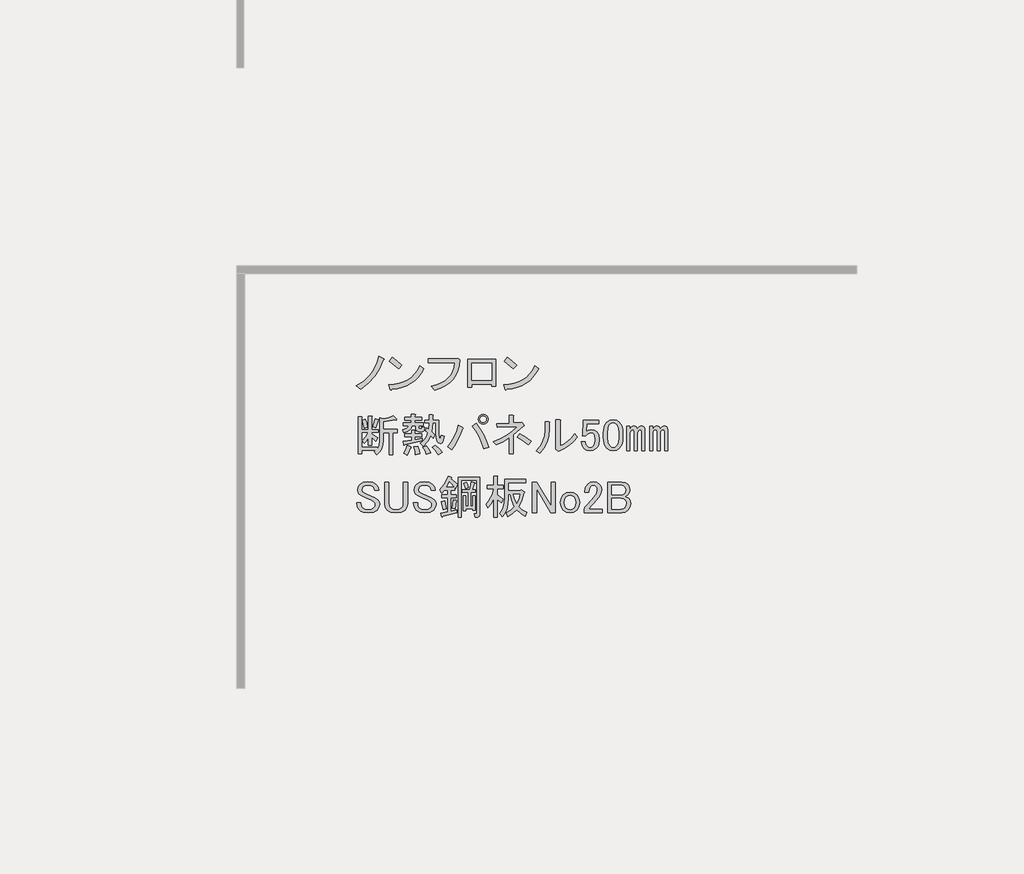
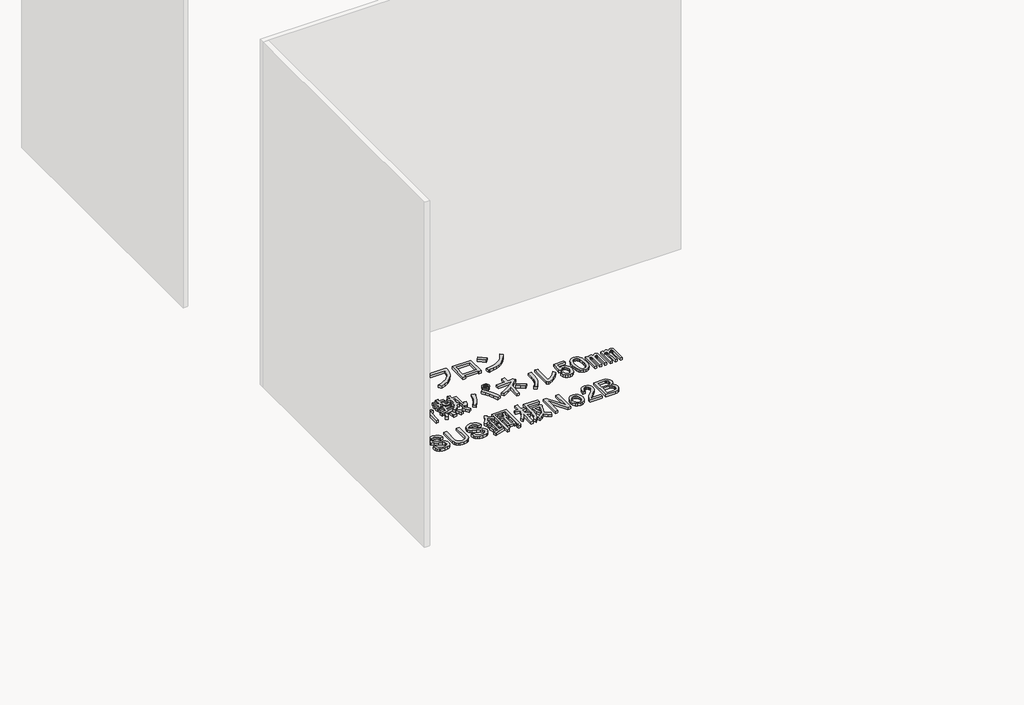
# One storey, part 87 of 117: 1 proxy.
"""IFC4 building model written with IfcOpenShell, lengths in millimetres."""

from ifc_helpers import new_model, si_unit, frame, origin, place, context, project, spatial, polyline, outline, extrude, element, save

model = new_model("IFC4")

# Units and contexts
model_context = context("Model", 3, world=origin())
ifc_project = project(units=[si_unit("LENGTHUNIT", "METRE", prefix="MILLI")], contexts=[model_context])

# Site, building, storey
site = spatial("IfcSite", under=ifc_project)
building = spatial("IfcBuilding", under=site)
storey = spatial("IfcBuildingStorey", under=building, Name="レベル 1", Elevation=500.0)

# Proxy
placement = place(None, origin())
element("IfcBuildingElementProxy", 1, Name="200㎜\u3000MS Pゴシック", ObjectType="200㎜\u3000MS Pゴシック", at=placement, inside=storey, context=model_context, shape_type="SweptSolid", body=[
    extrude(outline(polyline([(8943.6706985, 7392.9503118), (8918.0952502, 7333.1784775), (8889.646156, 7287.2001434), (8847.9782907, 7241.7965385), (8798.8389462, 7204.439142), (8771.2519457, 7226.2788507), (8818.9544673, 7256.7394971), (8858.6107805, 7295.2463519), (8875.9963381, 7319.1694538), (8891.3703435, 7347.2593423), (8904.7327969, 7379.5160173), (8916.0836981, 7415.9394788), (8947.1190736, 7402.1459786), (8950.2800841, 7397.5481452), (8943.6706985, 7392.9503118)])), frame((0.0, 0.0, 500.0), z_axis=(0.0, 0.0, 1.0), x_axis=(1.0, 0.0, 0.0)), (0.0, 0.0, 1.0), 25.0),
    extrude(outline(polyline([(9043.3977052, 7337.7763109), (8984.7753292, 7384.9041033), (9004.3161212, 7409.0427287), (9031.6157571, 7389.2145721), (9065.2374138, 7359.6160196), (9043.3977052, 7337.7763109)])), frame((0.0, 0.0, 500.0), z_axis=(0.0, 0.0, 1.0), x_axis=(1.0, 0.0, 0.0)), (0.0, 0.0, 1.0), 25.0),
    extrude(outline(polyline([(9205.4713328, 7337.7763109), (9188.947869, 7308.034076), (9169.8381239, 7282.0275808), (9148.1420975, 7259.7568252), (9123.8597898, 7241.2218093), (9096.9912008, 7226.422533), (9067.5363306, 7215.3589964), (9035.495179, 7208.0311994), (9000.8677461, 7204.439142), (8995.1204544, 7196.3929336), (8989.3731626, 7202.1402253), (8980.1774958, 7232.0261425), (9016.0082679, 7234.7022252), (9048.7857912, 7241.0062859), (9078.5100658, 7250.9383244), (9105.1810916, 7264.4983409), (9128.7988687, 7281.6863354), (9149.363397, 7302.5023077), (9166.8746766, 7326.946258), (9181.3327074, 7355.0181862), (9205.4713328, 7337.7763109)])), frame((0.0, 0.0, 500.0), z_axis=(0.0, 0.0, 1.0), x_axis=(1.0, 0.0, 0.0)), (0.0, 0.0, 1.0), 25.0),
    extrude(outline(polyline([(9256.2314136, 7222.8304757), (9290.014713, 7232.5110702), (9319.5234641, 7244.8857078), (9344.757667, 7259.9543884), (9365.7173217, 7277.717112), (9382.402428, 7298.1738786), (9394.8129862, 7321.3246882), (9402.9489961, 7347.1695409), (9406.8104577, 7375.7084365), (9234.3917049, 7375.7084365), (9234.3917049, 7400.9965202), (9409.1093744, 7400.9965202), (9425.2017914, 7404.4448953), (9437.8458332, 7392.9503118), (9434.325617, 7356.4550091), (9426.0638851, 7323.4080815), (9413.0606375, 7293.8095289), (9395.3158742, 7267.6593514), (9372.8295952, 7244.957549), (9345.6018005, 7225.7041216), (9313.6324901, 7209.8990692), (9276.921664, 7197.5423919), (9256.2314136, 7222.8304757)])), frame((0.0, 0.0, 500.0), z_axis=(0.0, 0.0, 1.0), x_axis=(1.0, 0.0, 0.0)), (0.0, 0.0, 1.0), 25.0),
    extrude(outline(polyline([(9670.955987, 7223.979934), (9644.5184449, 7223.979934), (9644.5184449, 7236.6239759), (9516.9285679, 7236.6239759), (9516.9285679, 7218.2326423), (9490.4910258, 7218.2326423), (9490.4910258, 7397.5481452), (9670.955987, 7397.5481452), (9670.955987, 7223.979934)]), holes=[polyline([(9516.9285679, 7372.2600614), (9516.9285679, 7261.9120596), (9644.5184449, 7261.9120596), (9644.5184449, 7372.2600614), (9516.9285679, 7372.2600614)])]), frame((0.0, 0.0, 500.0), z_axis=(0.0, 0.0, 1.0), x_axis=(1.0, 0.0, 0.0)), (0.0, 0.0, 1.0), 25.0),
    extrude(outline(polyline([(9947.0099049, 7337.7763109), (9930.4864411, 7308.034076), (9911.376696, 7282.0275808), (9889.6806696, 7259.7568252), (9865.3983619, 7241.2218093), (9838.5297729, 7226.422533), (9809.0749026, 7215.3589964), (9777.0337511, 7208.0311994), (9742.4063182, 7204.439142), (9736.6590264, 7196.3929336), (9730.9117347, 7202.1402253), (9721.7160679, 7232.0261425), (9757.5468399, 7234.7022252), (9790.3243633, 7241.0062859), (9820.0486378, 7250.9383244), (9846.7196637, 7264.4983409), (9870.3374407, 7281.6863354), (9890.9019691, 7302.5023077), (9908.4132486, 7326.946258), (9922.8712795, 7355.0181862), (9947.0099049, 7337.7763109)])), frame((0.0, 0.0, 500.0), z_axis=(0.0, 0.0, 1.0), x_axis=(1.0, 0.0, 0.0)), (0.0, 0.0, 1.0), 25.0),
    extrude(outline(polyline([(9784.9362772, 7337.7763109), (9726.3139013, 7384.9041033), (9745.8546933, 7409.0427287), (9773.1543291, 7389.2145721), (9806.7759859, 7359.6160196), (9784.9362772, 7337.7763109)])), frame((0.0, 0.0, 500.0), z_axis=(0.0, 0.0, 1.0), x_axis=(1.0, 0.0, 0.0)), (0.0, 0.0, 1.0), 25.0),
    extrude(outline(polyline([(8877.0021141, 6960.7654779), (8894.2439894, 7013.6405621), (8914.9342397, 7007.8932704), (8916.6584273, 7004.7322599), (8912.635323, 7002.1459786), (8895.3934478, 6953.8687278), (8877.0021141, 6960.7654779)])), frame((0.0, 0.0, 500.0), z_axis=(0.0, 0.0, 1.0), x_axis=(1.0, 0.0, 0.0)), (0.0, 0.0, 1.0), 25.0),
    extrude(outline(polyline([(9031.0295333, 7009.0427287), (9029.3053458, 7004.4448953), (9021.8338665, 7006.743812), (8944.8201569, 6994.0997701), (8944.8201569, 6944.673061), (9036.7768251, 6944.673061), (9036.7768251, 6922.8333523), (9005.7414495, 6922.8333523), (9005.7414495, 6782.5994334), (8982.7522825, 6782.5994334), (8982.7522825, 6922.8333523), (8944.8201569, 6922.8333523), (8944.8201569, 6873.4066432), (8942.2338756, 6845.6041193), (8934.4750317, 6820.8189236), (8921.5436253, 6799.051056), (8903.4396562, 6780.3005167), (8886.1977809, 6799.8413086), (8896.5429061, 6809.0369755), (8806.8851546, 6809.0369755), (8806.8851546, 6787.1972668), (8783.8959876, 6787.1972668), (8783.8959876, 7026.284604), (8805.7356963, 7026.284604), (8810.6208943, 7023.9856873), (8806.8851546, 7019.3878539), (8806.8851546, 6943.5236026), (8849.4151137, 6943.5236026), (8849.4151137, 7030.8824374), (8867.8064473, 7030.8824374), (8872.6916453, 7028.5835207), (8868.9559057, 7023.9856873), (8868.9559057, 6943.5236026), (8912.635323, 6943.5236026), (8912.635323, 6925.132269), (8868.9559057, 6925.132269), (8868.9559057, 6915.9366022), (8909.186948, 6889.4990601), (8895.3934478, 6867.6593514), (8868.9559057, 6894.0968935), (8868.9559057, 6841.2218093), (8849.4151137, 6841.2218093), (8849.4151137, 6889.4990601), (8836.1963426, 6869.6709035), (8821.8281132, 6853.8658512), (8809.1840713, 6872.2571848), (8831.02378, 6896.3958102), (8848.2656553, 6925.132269), (8806.8851546, 6925.132269), (8806.8851546, 6830.8766841), (8904.5891146, 6830.8766841), (8904.5891146, 6817.0831839), (8917.520521, 6841.2218093), (8921.8309898, 6874.5561015), (8921.8309898, 7019.3878539), (8943.6706985, 7013.6405621), (8979.8786366, 7021.1120414), (9010.339283, 7034.3308125), (9031.0295333, 7009.0427287)])), frame((0.0, 0.0, 500.0), z_axis=(0.0, 0.0, 1.0), x_axis=(1.0, 0.0, 0.0)), (0.0, 0.0, 1.0), 25.0),
    extrude(outline(polyline([(8822.9775716, 6952.7192695), (8810.3335297, 7003.2954369), (8829.8743217, 7010.1921871), (8837.6331656, 6986.0535617), (8842.5183636, 6959.6160196), (8822.9775716, 6952.7192695)])), frame((0.0, 0.0, 500.0), z_axis=(0.0, 0.0, 1.0), x_axis=(1.0, 0.0, 0.0)), (0.0, 0.0, 1.0), 25.0),
    extrude(outline(polyline([(9121.8367431, 6832.0261425), (9125.2851182, 6827.1409445), (9119.5378264, 6823.979934), (9109.7674304, 6798.4044857), (9098.8475761, 6779.1510583), (9075.858409, 6790.6456418), (9088.5024509, 6814.209538), (9098.8475761, 6841.2218093), (9121.8367431, 6832.0261425)])), frame((0.0, 0.0, 500.0), z_axis=(0.0, 0.0, 1.0), x_axis=(1.0, 0.0, 0.0)), (0.0, 0.0, 1.0), 25.0),
    extrude(outline(polyline([(9166.6656188, 6836.6239759), (9176.7233794, 6809.32434), (9181.6085774, 6787.1972668), (9152.8721186, 6781.449975), (9150.2858373, 6803.0023191), (9142.5269934, 6833.1756008), (9166.6656188, 6836.6239759)])), frame((0.0, 0.0, 500.0), z_axis=(0.0, 0.0, 1.0), x_axis=(1.0, 0.0, 0.0)), (0.0, 0.0, 1.0), 25.0),
    extrude(outline(polyline([(9281.611454, 6842.3712677), (9306.3248086, 6821.1062881), (9325.2908714, 6796.3929336), (9298.8533293, 6781.449975), (9279.5999019, 6811.0485276), (9260.9212037, 6830.8766841), (9281.611454, 6842.3712677)])), frame((0.0, 0.0, 500.0), z_axis=(0.0, 0.0, 1.0), x_axis=(1.0, 0.0, 0.0)), (0.0, 0.0, 1.0), 25.0),
    extrude(outline(polyline([(9222.9890781, 6783.7488917), (9214.655505, 6808.4622463), (9201.1493694, 6829.7272258), (9221.8396197, 6837.7734343), (9238.7941304, 6816.2210902), (9250.5760785, 6792.9445585), (9222.9890781, 6783.7488917)])), frame((0.0, 0.0, 500.0), z_axis=(0.0, 0.0, 1.0), x_axis=(1.0, 0.0, 0.0)), (0.0, 0.0, 1.0), 25.0),
    extrude(outline(polyline([(9083.9046175, 6846.9691011), (9081.8930654, 6842.0839031), (9078.1573257, 6843.520726), (9072.410034, 6867.6593514), (9127.5840349, 6875.7055599), (9127.5840349, 6898.6947269), (9083.9046175, 6898.6947269), (9083.9046175, 6917.0860605), (9127.5840349, 6917.0860605), (9127.5840349, 6940.0752276), (9145.9753685, 6940.0752276), (9150.8605665, 6937.7763109), (9147.1248268, 6933.1784775), (9147.1248268, 6917.0860605), (9191.9537026, 6917.0860605), (9191.9537026, 6898.6947269), (9147.1248268, 6898.6947269), (9147.1248268, 6879.1539349), (9197.7009943, 6888.3496017), (9197.7009943, 6872.2571848), (9083.9046175, 6846.9691011)])), frame((0.0, 0.0, 500.0), z_axis=(0.0, 0.0, 1.0), x_axis=(1.0, 0.0, 0.0)), (0.0, 0.0, 1.0), 25.0),
    extrude(outline(polyline([(9154.021577, 6968.8116864), (9128.7334932, 6968.8116864), (9124.1356598, 6951.3542877), (9113.7905346, 6938.0636755), (9097.6981177, 6928.9398498), (9075.858409, 6923.9828107), (9071.2605756, 6943.5236026), (9096.5486594, 6952.1445403), (9104.0201386, 6959.4723373), (9108.0432429, 6968.8116864), (9072.410034, 6968.8116864), (9072.410034, 6987.20302), (9126.4345765, 6987.20302), (9126.4345765, 7004.4448953), (9082.7551591, 7004.4448953), (9082.7551591, 7022.8362289), (9126.4345765, 7022.8362289), (9126.4345765, 7041.2275626), (9148.2742852, 7041.2275626), (9153.1594832, 7038.9286459), (9149.4237436, 7034.3308125), (9149.4237436, 7022.8362289), (9191.9537026, 7022.8362289), (9191.9537026, 7004.4448953), (9149.4237436, 7004.4448953), (9149.4237436, 6987.20302), (9202.2988277, 6987.20302), (9202.2988277, 6968.8116864), (9173.5623689, 6968.8116864), (9173.5623689, 6956.1676445), (9174.9991919, 6950.9950819), (9179.3096607, 6949.2708944), (9189.6547859, 6949.2708944), (9193.3905255, 6952.4319049), (9193.1031609, 6961.9149363), (9212.6439529, 6959.6160196), (9209.770307, 6938.0636755), (9204.4540622, 6932.6755894), (9196.551536, 6930.8795608), (9172.4129106, 6930.8795608), (9158.6194104, 6935.7647588), (9154.021577, 6950.4203528), (9154.021577, 6968.8116864)])), frame((0.0, 0.0, 500.0), z_axis=(0.0, 0.0, 1.0), x_axis=(1.0, 0.0, 0.0)), (0.0, 0.0, 1.0), 25.0),
    extrude(outline(polyline([(9285.0598291, 6986.0535617), (9263.2201204, 6986.0535617), (9258.622287, 6928.5806441), (9278.163079, 6910.1893104), (9267.8179538, 6888.3496017), (9251.7255369, 6904.4420187), (9232.4721095, 6866.7972576), (9202.2988277, 6834.3250592), (9185.0569525, 6855.0153095), (9200.1435933, 6866.9409399), (9213.2186821, 6882.0275808), (9224.2822187, 6900.2752321), (9233.3342033, 6921.683894), (9216.092328, 6936.6268525), (9224.1385364, 6953.8687278), (9237.9320367, 6943.5236026), (9240.2309534, 6986.0535617), (9212.6439529, 6986.0535617), (9212.6439529, 7004.4448953), (9240.2309534, 7004.4448953), (9240.2309534, 7038.9286459), (9262.0706621, 7038.9286459), (9266.95586, 7036.6297292), (9263.2201204, 7032.0318957), (9263.2201204, 7004.4448953), (9304.6006211, 7004.4448953), (9304.6006211, 6907.8903937), (9308.0489961, 6883.7517683), (9311.2818477, 6881.7402162), (9314.0836525, 6884.9012267), (9318.3941213, 6906.7409354), (9337.9349133, 6899.8441853), (9333.408921, 6873.0474374), (9325.578236, 6857.0268616), (9314.4428582, 6851.7824579), (9300.0027877, 6857.3142262), (9293.4652433, 6864.6420232), (9288.7955687, 6876.280289), (9285.0598291, 6912.4882271), (9285.0598291, 6986.0535617)])), frame((0.0, 0.0, 500.0), z_axis=(0.0, 0.0, 1.0), x_axis=(1.0, 0.0, 0.0)), (0.0, 0.0, 1.0), 25.0),
    extrude(outline(polyline([(9543.6879583, 6983.754645), (9570.3410238, 6947.0438188), (9592.8273029, 6909.3272167), (9611.1467953, 6870.6048384), (9625.2995013, 6830.8766841), (9594.2641258, 6820.531559), (9578.8182792, 6863.6362472), (9561.2171982, 6902.143102), (9541.4608827, 6936.0521234), (9519.5493329, 6965.3633113), (9543.6879583, 6983.754645)])), frame((0.0, 0.0, 500.0), z_axis=(0.0, 0.0, 1.0), x_axis=(1.0, 0.0, 0.0)), (0.0, 0.0, 1.0), 25.0),
    extrude(outline(polyline([(9456.3291235, 6957.3171029), (9460.3522278, 6951.8571757), (9454.0302068, 6946.9719777), (9442.1045764, 6911.5542922), (9427.0179356, 6877.717112), (9408.7702842, 6845.460437), (9387.3616224, 6814.7842672), (9360.9240803, 6832.0261425), (9384.1287708, 6863.4925649), (9403.1666748, 6896.9705394), (9418.0377922, 6932.460066), (9428.7421231, 6969.9611447), (9456.3291235, 6957.3171029)])), frame((0.0, 0.0, 500.0), z_axis=(0.0, 0.0, 1.0), x_axis=(1.0, 0.0, 0.0)), (0.0, 0.0, 1.0), 25.0),
    extrude(outline(polyline([(9589.6662924, 6978.0073532), (9577.0222505, 6980.3062699), (9566.6771253, 6987.20302), (9559.7803752, 6997.5481452), (9557.4814585, 7010.1921871), (9559.7803752, 7022.8362289), (9566.6771253, 7033.1813541), (9577.0222505, 7040.0781042), (9589.6662924, 7042.3770209), (9602.3103343, 7040.0781042), (9612.6554594, 7033.1813541), (9619.5522095, 7022.8362289), (9621.8511262, 7010.1921871), (9619.5522095, 6997.5481452), (9612.6554594, 6987.20302), (9602.3103343, 6980.3062699), (9589.6662924, 6978.0073532)]), holes=[polyline([(9589.6662924, 6989.5019367), (9597.9998654, 6990.9387597), (9604.609251, 6995.2492285), (9608.9197198, 7001.858614), (9610.3565427, 7010.1921871), (9608.9197198, 7018.5257601), (9604.609251, 7025.1351456), (9597.9998654, 7029.4456145), (9589.6662924, 7030.8824374), (9581.3327193, 7029.4456145), (9574.7233338, 7025.1351456), (9570.412865, 7018.5257601), (9568.976042, 7010.1921871), (9570.412865, 7001.858614), (9574.7233338, 6995.2492285), (9581.3327193, 6990.9387597), (9589.6662924, 6989.5019367)])]), frame((0.0, 0.0, 500.0), z_axis=(0.0, 0.0, 1.0), x_axis=(1.0, 0.0, 0.0)), (0.0, 0.0, 1.0), 25.0),
    extrude(outline(polyline([(9879.3297971, 6844.6701844), (9842.2597652, 6873.9813723), (9809.2128376, 6895.2463519), (9826.4547129, 6917.0860605), (9865.2489323, 6893.8095289), (9898.8705891, 6867.6593514), (9879.3297971, 6844.6701844)])), frame((0.0, 0.0, 500.0), z_axis=(0.0, 0.0, 1.0), x_axis=(1.0, 0.0, 0.0)), (0.0, 0.0, 1.0), 25.0),
    extrude(outline(polyline([(9833.351463, 6988.3524784), (9840.2482131, 6990.6513951), (9852.892255, 6973.4095198), (9854.0417134, 6967.3748634), (9848.2944216, 6965.3633113), (9785.0742122, 6909.0398521), (9785.0742122, 6788.3467251), (9758.6366701, 6788.3467251), (9758.6366701, 6890.6485184), (9718.4056278, 6866.5098931), (9673.5767521, 6844.6701844), (9654.0359601, 6865.3604347), (9699.5832473, 6884.8293855), (9740.8200657, 6907.6030291), (9777.7464152, 6933.6813655), (9810.362296, 6963.0643946), (9680.4735022, 6957.3171029), (9677.0251271, 6982.6051866), (9758.6366701, 6984.9041033), (9758.6366701, 7036.6297292), (9781.6258372, 7036.6297292), (9787.6604935, 7033.1813541), (9785.0742122, 7027.4340623), (9785.0742122, 6986.0535617), (9833.351463, 6988.3524784)])), frame((0.0, 0.0, 500.0), z_axis=(0.0, 0.0, 1.0), x_axis=(1.0, 0.0, 0.0)), (0.0, 0.0, 1.0), 25.0),
    extrude(outline(polyline([(9932.296838, 6806.7380587), (9957.4412394, 6835.9774056), (9975.4015262, 6868.5214452), (9986.1776982, 6904.3701775), (9989.7697556, 6943.5236026), (9989.7697556, 6995.2492285), (10013.908381, 6995.2492285), (10019.6556727, 6991.8008534), (10016.2072977, 6986.0535617), (10016.2072977, 6944.673061), (10012.3997169, 6898.9102504), (10000.9769745, 6858.17632), (9981.9390705, 6822.4712699), (9955.286005, 6791.7951002), (9932.296838, 6806.7380587)])), frame((0.0, 0.0, 500.0), z_axis=(0.0, 0.0, 1.0), x_axis=(1.0, 0.0, 0.0)), (0.0, 0.0, 1.0), 25.0),
    extrude(outline(polyline([(10086.3242571, 6837.7734343), (10111.1094529, 6849.9864292), (10134.8888725, 6867.0846222), (10157.6625161, 6889.0680132), (10179.4303837, 6915.9366022), (10195.5228006, 6894.0968935), (10172.246269, 6866.2943696), (10146.0960914, 6842.6586322), (10117.0722681, 6823.1896814), (10085.1747988, 6807.8875171), (10075.979132, 6803.2896837), (10057.5877983, 6817.0831839), (10059.886715, 6822.8304757), (10059.886715, 7007.8932704), (10084.0253404, 7007.8932704), (10089.7726322, 7004.4448953), (10086.3242571, 6998.6976035), (10086.3242571, 6837.7734343)])), frame((0.0, 0.0, 500.0), z_axis=(0.0, 0.0, 1.0), x_axis=(1.0, 0.0, 0.0)), (0.0, 0.0, 1.0), 25.0),
    extrude(outline(polyline([(10236.9033013, 7004.4448953), (10335.7567195, 7004.4448953), (10335.7567195, 6982.6051866), (10258.7430099, 6982.6051866), (10258.7430099, 6979.1568116), (10255.2946349, 6936.6268525), (10254.1451765, 6929.7301024), (10269.6628643, 6940.0752276), (10286.3300104, 6943.5236026), (10307.3076253, 6939.787863), (10324.262136, 6928.5806441), (10336.3314487, 6908.7524875), (10340.3545529, 6881.4528516), (10335.1819904, 6846.9691011), (10328.7162871, 6833.1756008), (10319.6643026, 6821.6810173), (10301.5603336, 6809.6117046), (10279.4332603, 6805.5886004), (10258.4556454, 6809.32434), (10241.5011347, 6820.531559), (10229.431822, 6839.2102572), (10223.109801, 6865.3604347), (10249.5473431, 6865.3604347), (10253.5704474, 6846.6817365), (10261.0419266, 6834.3250592), (10268.8007705, 6829.1524966), (10278.2838019, 6827.4283091), (10290.6404792, 6829.4398612), (10300.1235106, 6835.4745175), (10309.606542, 6852.4290282), (10312.7675525, 6878.0044766), (10310.1812712, 6902.143102), (10302.4224273, 6917.0860605), (10294.950948, 6922.2586231), (10286.3300104, 6923.9828107), (10273.3986039, 6921.3965294), (10262.191385, 6913.6376855), (10252.9957182, 6903.2925603), (10230.0065511, 6903.2925603), (10231.1560095, 6911.3387688), (10236.9033013, 6999.8470619), (10236.9033013, 7004.4448953)])), frame((0.0, 0.0, 500.0), z_axis=(0.0, 0.0, 1.0), x_axis=(1.0, 0.0, 0.0)), (0.0, 0.0, 1.0), 25.0),
    extrude(outline(polyline([(10365.6426367, 6918.2355189), (10367.0794596, 6941.7994151), (10371.3899284, 6961.9149363), (10378.5740431, 6978.5820824), (10388.6318037, 6991.8008534), (10406.7357728, 7003.8701661), (10428.862846, 7007.8932704), (10450.9899193, 7003.8701661), (10469.0938884, 6991.8008534), (10479.1516489, 6978.5820824), (10486.3357636, 6961.9149363), (10490.6462325, 6941.7994151), (10492.0830554, 6918.2355189), (10492.0830554, 6895.2463519), (10490.6462325, 6872.1853437), (10486.3357636, 6852.4290282), (10479.1516489, 6835.9774056), (10469.0938884, 6822.8304757), (10450.9899193, 6810.761163), (10428.862846, 6806.7380587), (10406.7357728, 6810.761163), (10388.6318037, 6822.8304757), (10378.5740431, 6835.9774056), (10371.3899284, 6852.4290282), (10367.0794596, 6872.1853437), (10365.6426367, 6895.2463519), (10365.6426367, 6918.2355189)]), holes=[polyline([(10428.862846, 6986.0535617), (10417.9429917, 6983.754645), (10408.1725957, 6976.8578948), (10401.6350513, 6967.7340692), (10396.9653768, 6955.3055507), (10393.2296371, 6920.5344356), (10393.2296371, 6894.0968935), (10397.2527414, 6859.9005075), (10402.2816217, 6847.3283068), (10409.3220541, 6837.7734343), (10418.8050855, 6830.8766841), (10428.862846, 6828.5777674), (10439.7827004, 6830.8766841), (10449.5530964, 6837.7734343), (10456.0906408, 6846.8972599), (10460.7603153, 6859.3257784), (10464.496055, 6894.0968935), (10464.496055, 6920.5344356), (10460.7603153, 6955.3055507), (10456.0906408, 6967.7340692), (10449.5530964, 6976.8578948), (10439.7827004, 6983.754645), (10428.862846, 6986.0535617)])]), frame((0.0, 0.0, 500.0), z_axis=(0.0, 0.0, 1.0), x_axis=(1.0, 0.0, 0.0)), (0.0, 0.0, 1.0), 25.0),
    extrude(outline(polyline([(10536.9119311, 6806.7380587), (10517.3711392, 6806.7380587), (10517.3711392, 6964.213853), (10536.9119311, 6964.213853), (10536.9119311, 6946.9719777), (10548.9812438, 6962.4896654), (10562.2000149, 6967.662228), (10571.3956817, 6966.2254051), (10578.2924318, 6961.9149363), (10585.1891819, 6948.121436), (10598.1205884, 6962.77703), (10611.626724, 6967.662228), (10619.9602971, 6966.2254051), (10626.5696826, 6961.9149363), (10631.7422452, 6953.2939986), (10633.4664327, 6941.2246859), (10633.4664327, 6806.7380587), (10613.9256407, 6806.7380587), (10613.9256407, 6930.8795608), (10611.3393594, 6940.3625922), (10603.5805156, 6943.5236026), (10593.2353904, 6938.9257692), (10587.200734, 6930.3048316), (10585.1891819, 6920.5344356), (10585.1891819, 6806.7380587), (10565.6483899, 6806.7380587), (10565.6483899, 6930.8795608), (10563.0621086, 6940.3625922), (10555.3032648, 6943.5236026), (10544.9581396, 6938.9257692), (10538.9234833, 6930.3048316), (10536.9119311, 6920.5344356), (10536.9119311, 6806.7380587)])), frame((0.0, 0.0, 500.0), z_axis=(0.0, 0.0, 1.0), x_axis=(1.0, 0.0, 0.0)), (0.0, 0.0, 1.0), 25.0),
    extrude(outline(polyline([(10758.7573931, 6967.662228), (10767.0909661, 6966.2254051), (10773.7003517, 6961.9149363), (10778.8729142, 6953.2939986), (10780.5971018, 6941.2246859), (10780.5971018, 6806.7380587), (10761.0563098, 6806.7380587), (10761.0563098, 6930.8795608), (10758.4700285, 6940.3625922), (10750.7111846, 6943.5236026), (10740.3660594, 6938.9257692), (10734.3314031, 6930.3048316), (10732.319851, 6920.5344356), (10732.319851, 6806.7380587), (10712.779059, 6806.7380587), (10712.779059, 6930.8795608), (10710.1927777, 6940.3625922), (10702.4339338, 6943.5236026), (10692.0888087, 6938.9257692), (10686.0541523, 6930.3048316), (10684.0426002, 6920.5344356), (10684.0426002, 6806.7380587), (10664.5018082, 6806.7380587), (10664.5018082, 6964.213853), (10684.0426002, 6964.213853), (10684.0426002, 6946.9719777), (10696.1119129, 6962.4896654), (10709.3306839, 6967.662228), (10718.5263508, 6966.2254051), (10725.4231009, 6961.9149363), (10732.319851, 6948.121436), (10745.2512574, 6962.77703), (10758.7573931, 6967.662228)])), frame((0.0, 0.0, 500.0), z_axis=(0.0, 0.0, 1.0), x_axis=(1.0, 0.0, 0.0)), (0.0, 0.0, 1.0), 25.0),
    extrude(outline(polyline([(8779.2981542, 6552.7192695), (8783.3212584, 6573.1221552), (8795.3905711, 6590.6513951), (8815.7934569, 6602.7207078), (8844.8172803, 6606.743812), (8876.1400204, 6602.1459786), (8898.8418228, 6588.3524784), (8910.9111355, 6570.8232385), (8914.9342397, 6550.4203528), (8888.4966976, 6550.4203528), (8886.1977809, 6563.0643946), (8879.3010308, 6573.4095198), (8866.0822598, 6581.1683637), (8847.116197, 6583.754645), (8826.7133112, 6581.4557283), (8813.7819048, 6574.5589781), (8807.7472484, 6565.9380405), (8805.7356963, 6556.1676445), (8810.3335297, 6541.2246859), (8831.02378, 6529.7301024), (8890.7956143, 6503.2925603), (8908.0374896, 6491.7979768), (8917.520521, 6478.0044766), (8920.6815315, 6461.9120596), (8916.6584273, 6440.6470801), (8904.5891146, 6422.8304757), (8894.6031951, 6415.2871552), (8881.8873121, 6409.8990692), (8848.2656553, 6405.5886004), (8814.6439985, 6410.761163), (8801.0660217, 6417.2268662), (8789.6432794, 6426.2788507), (8778.4360604, 6444.6701844), (8774.7003208, 6469.9582681), (8801.1378629, 6469.9582681), (8803.4367796, 6452.1416637), (8810.3335297, 6440.072351), (8826.4259466, 6430.5893196), (8849.4151137, 6427.4283091), (8870.3927286, 6430.301955), (8885.0483226, 6438.9228926), (8891.9450727, 6448.1185594), (8894.2439894, 6457.3142262), (8892.5198019, 6466.7972576), (8887.3472393, 6474.5561015), (8868.9559057, 6486.050685), (8839.0699885, 6499.8441853), (8805.7356963, 6514.7871438), (8789.6432794, 6525.132269), (8781.8844355, 6537.2015817), (8779.2981542, 6552.7192695)])), frame((0.0, 0.0, 500.0), z_axis=(0.0, 0.0, 1.0), x_axis=(1.0, 0.0, 0.0)), (0.0, 0.0, 1.0), 25.0),
    extrude(outline(polyline([(8954.7054987, 6604.4448953), (8981.1430408, 6604.4448953), (8981.1430408, 6466.5098931), (8983.7293221, 6451.8542991), (8991.488166, 6440.072351), (9007.0058537, 6430.5893196), (9028.2708332, 6427.4283091), (9049.5358128, 6430.5893196), (9065.0535005, 6440.072351), (9072.8123444, 6451.8542991), (9075.3986257, 6466.5098931), (9075.3986257, 6604.4448953), (9101.8361678, 6604.4448953), (9101.8361678, 6465.3604347), (9097.8130635, 6442.3712677), (9085.7437508, 6423.979934), (9075.2549434, 6415.9337256), (9062.1798546, 6410.1864338), (9028.2708332, 6405.5886004), (8994.3618119, 6410.1864338), (8981.2867231, 6415.9337256), (8970.7979156, 6423.979934), (8958.7286029, 6442.3712677), (8954.7054987, 6465.3604347), (8954.7054987, 6604.4448953)])), frame((0.0, 0.0, 500.0), z_axis=(0.0, 0.0, 1.0), x_axis=(1.0, 0.0, 0.0)), (0.0, 0.0, 1.0), 25.0),
    extrude(outline(polyline([(9144.1822135, 6552.7192695), (9148.2053177, 6573.1221552), (9160.2746304, 6590.6513951), (9180.6775161, 6602.7207078), (9209.7013395, 6606.743812), (9241.0240796, 6602.1459786), (9263.7258821, 6588.3524784), (9275.7951948, 6570.8232385), (9279.818299, 6550.4203528), (9253.3807569, 6550.4203528), (9251.0818402, 6563.0643946), (9244.1850901, 6573.4095198), (9230.966319, 6581.1683637), (9212.0002562, 6583.754645), (9191.5973705, 6581.4557283), (9178.665964, 6574.5589781), (9172.6313077, 6565.9380405), (9170.6197556, 6556.1676445), (9175.217589, 6541.2246859), (9195.9078393, 6529.7301024), (9255.6796736, 6503.2925603), (9272.9215489, 6491.7979768), (9282.4045803, 6478.0044766), (9285.5655908, 6461.9120596), (9281.5424865, 6440.6470801), (9269.4731738, 6422.8304757), (9259.4872544, 6415.2871552), (9246.7713714, 6409.8990692), (9213.1497146, 6405.5886004), (9179.5280578, 6410.761163), (9165.950081, 6417.2268662), (9154.5273386, 6426.2788507), (9143.3201197, 6444.6701844), (9139.5843801, 6469.9582681), (9166.0219222, 6469.9582681), (9168.3208389, 6452.1416637), (9175.217589, 6440.072351), (9191.3100059, 6430.5893196), (9214.2991729, 6427.4283091), (9235.2767879, 6430.301955), (9249.9323819, 6438.9228926), (9256.829132, 6448.1185594), (9259.1280487, 6457.3142262), (9257.4038611, 6466.7972576), (9252.2312986, 6474.5561015), (9233.8399649, 6486.050685), (9203.9540478, 6499.8441853), (9170.6197556, 6514.7871438), (9154.5273386, 6525.132269), (9146.7684948, 6537.2015817), (9144.1822135, 6552.7192695)])), frame((0.0, 0.0, 500.0), z_axis=(0.0, 0.0, 1.0), x_axis=(1.0, 0.0, 0.0)), (0.0, 0.0, 1.0), 25.0),
    extrude(outline(polyline([(9413.8451429, 6565.3633113), (9372.4646422, 6609.0427287), (9350.6249335, 6569.9611447), (9405.7989344, 6569.9611447), (9405.7989344, 6551.5698111), (9379.3613923, 6551.5698111), (9379.3613923, 6522.8333523), (9417.2935179, 6522.8333523), (9417.2935179, 6504.4420187), (9379.3613923, 6504.4420187), (9379.3613923, 6417.0831839), (9418.4429763, 6427.4283091), (9420.741893, 6407.8875171), (9328.7852248, 6382.5994334), (9326.4863081, 6376.8521416), (9321.8884747, 6380.3005167), (9314.9917246, 6403.2896837), (9359.8206003, 6412.4853505), (9359.8206003, 6504.4420187), (9321.8884747, 6504.4420187), (9321.8884747, 6522.8333523), (9359.8206003, 6522.8333523), (9359.8206003, 6551.5698111), (9337.9808916, 6551.5698111), (9323.037933, 6533.1784775), (9310.3938912, 6553.8687278), (9338.5556208, 6591.5134888), (9363.2689754, 6642.3770209), (9385.1086841, 6636.6297292), (9388.5570591, 6632.8939895), (9382.8097674, 6630.8824374), (9381.660309, 6627.4340623), (9426.4891847, 6589.5019367), (9413.8451429, 6565.3633113)])), frame((0.0, 0.0, 500.0), z_axis=(0.0, 0.0, 1.0), x_axis=(1.0, 0.0, 0.0)), (0.0, 0.0, 1.0), 25.0),
    extrude(outline(polyline([(9481.6631856, 6602.1459786), (9488.8473003, 6586.9156554), (9494.3072275, 6566.5127697), (9477.0653522, 6560.7654779), (9465.5707687, 6597.5481452), (9481.6631856, 6602.1459786)])), frame((0.0, 0.0, 500.0), z_axis=(0.0, 0.0, 1.0), x_axis=(1.0, 0.0, 0.0)), (0.0, 0.0, 1.0), 25.0),
    extrude(outline(polyline([(9534.5382698, 6600.9965202), (9537.1245511, 6597.5481452), (9531.0898948, 6594.0997701), (9518.4458529, 6556.1676445), (9539.1361032, 6556.1676445), (9539.1361032, 6537.7763109), (9508.1007277, 6537.7763109), (9508.1007277, 6449.2680178), (9523.0436863, 6449.2680178), (9523.0436863, 6517.0860605), (9539.1361032, 6517.0860605), (9539.1361032, 6422.8304757), (9523.0436863, 6422.8304757), (9523.0436863, 6430.8766841), (9477.0653522, 6430.8766841), (9477.0653522, 6418.2326423), (9460.9729353, 6418.2326423), (9460.9729353, 6514.7871438), (9477.0653522, 6514.7871438), (9477.0653522, 6449.2680178), (9492.0083108, 6449.2680178), (9492.0083108, 6537.7763109), (9456.3751019, 6537.7763109), (9456.3751019, 6556.1676445), (9502.353436, 6556.1676445), (9512.6985611, 6605.5943537), (9534.5382698, 6600.9965202)])), frame((0.0, 0.0, 500.0), z_axis=(0.0, 0.0, 1.0), x_axis=(1.0, 0.0, 0.0)), (0.0, 0.0, 1.0), 25.0),
    extrude(outline(polyline([(9428.7881014, 6634.3308125), (9569.0220204, 6634.3308125), (9569.0220204, 6394.0940169), (9565.2862807, 6382.8867979), (9554.0790618, 6379.1510583), (9537.9866449, 6379.1510583), (9533.3888115, 6400.990767), (9544.883395, 6400.990767), (9548.33177, 6402.1402253), (9549.4812284, 6405.5886004), (9549.4812284, 6615.9394788), (9448.3288934, 6615.9394788), (9448.3288934, 6376.8521416), (9428.7881014, 6376.8521416), (9428.7881014, 6634.3308125)])), frame((0.0, 0.0, 500.0), z_axis=(0.0, 0.0, 1.0), x_axis=(1.0, 0.0, 0.0)), (0.0, 0.0, 1.0), 25.0),
    extrude(outline(polyline([(9417.2935179, 6486.050685), (9419.8797992, 6482.8896746), (9416.1440596, 6480.3033933), (9408.0978511, 6433.1756008), (9389.7065175, 6435.4745175), (9395.4538092, 6489.4990601), (9417.2935179, 6486.050685)])), frame((0.0, 0.0, 500.0), z_axis=(0.0, 0.0, 1.0), x_axis=(1.0, 0.0, 0.0)), (0.0, 0.0, 1.0), 25.0),
    extrude(outline(polyline([(9340.2798083, 6484.9012267), (9351.7743918, 6433.1756008), (9331.0841415, 6427.4283091), (9319.589558, 6479.1539349), (9340.2798083, 6484.9012267)])), frame((0.0, 0.0, 500.0), z_axis=(0.0, 0.0, 1.0), x_axis=(1.0, 0.0, 0.0)), (0.0, 0.0, 1.0), 25.0),
    extrude(outline(polyline([(9740.2913148, 6405.5886004), (9769.0277736, 6422.8304757), (9790.8674823, 6444.6701844), (9773.0508779, 6486.6254142), (9763.2804819, 6527.4311857), (9750.63644, 6527.4311857), (9750.63644, 6503.2925603), (9748.193841, 6461.5528539), (9740.866044, 6427.1409445), (9728.653049, 6400.0568321), (9711.554856, 6380.3005167), (9697.7613558, 6403.2896837), (9710.8364446, 6420.6752413), (9720.1757937, 6442.9459968), (9725.7794031, 6470.1019504), (9727.647273, 6502.143102), (9727.647273, 6622.8362289), (9864.4328169, 6622.8362289), (9864.4328169, 6600.9965202), (9750.63644, 6600.9965202), (9750.63644, 6549.2708944), (9829.9490663, 6549.2708944), (9835.6963581, 6555.0181862), (9855.23715, 6541.2246859), (9856.673973, 6537.4889463), (9851.788775, 6533.1784775), (9839.4320977, 6486.6254142), (9820.7533995, 6445.8196427), (9839.7194623, 6427.4283091), (9871.329567, 6409.0369755), (9862.1339002, 6384.8983501), (9834.2595351, 6400.990767), (9805.8104409, 6426.2788507), (9781.3844509, 6401.8528608), (9749.4869817, 6381.449975), (9740.2913148, 6405.5886004)]), holes=[polyline([(9785.1201906, 6527.4311857), (9793.166399, 6494.3842581), (9805.8104409, 6466.5098931), (9818.4544828, 6492.6600706), (9826.5006912, 6527.4311857), (9785.1201906, 6527.4311857)])]), frame((0.0, 0.0, 500.0), z_axis=(0.0, 0.0, 1.0), x_axis=(1.0, 0.0, 0.0)), (0.0, 0.0, 1.0), 25.0),
    extrude(outline(polyline([(9657.5303135, 6376.8521416), (9657.5303135, 6496.3958102), (9639.713709, 6462.1994242), (9620.7476462, 6440.072351), (9609.2530627, 6460.7626013), (9626.494938, 6483.4644037), (9640.2884382, 6507.8903937), (9650.6335634, 6534.0405712), (9657.5303135, 6561.9149363), (9616.1498128, 6561.9149363), (9616.1498128, 6583.754645), (9657.5303135, 6583.754645), (9657.5303135, 6643.5264793), (9679.3700222, 6643.5264793), (9684.2552202, 6641.2275626), (9680.5194805, 6636.6297292), (9680.5194805, 6583.754645), (9718.4516061, 6583.754645), (9718.4516061, 6561.9149363), (9680.5194805, 6561.9149363), (9680.5194805, 6521.683894), (9718.4516061, 6495.2463519), (9708.106481, 6472.2571848), (9680.5194805, 6495.2463519), (9680.5194805, 6376.8521416), (9657.5303135, 6376.8521416)])), frame((0.0, 0.0, 500.0), z_axis=(0.0, 0.0, 1.0), x_axis=(1.0, 0.0, 0.0)), (0.0, 0.0, 1.0), 25.0),
    extrude(outline(polyline([(9908.1122342, 6604.4448953), (9936.848693, 6604.4448953), (10028.8053612, 6449.2680178), (10028.8053612, 6604.4448953), (10055.2429033, 6604.4448953), (10055.2429033, 6407.8875171), (10026.5064445, 6407.8875171), (9934.5497763, 6563.0643946), (9934.5497763, 6407.8875171), (9908.1122342, 6407.8875171), (9908.1122342, 6604.4448953)])), frame((0.0, 0.0, 500.0), z_axis=(0.0, 0.0, 1.0), x_axis=(1.0, 0.0, 0.0)), (0.0, 0.0, 1.0), 25.0),
    extrude(outline(polyline([(10088.3932822, 6472.2571848), (10093.2784802, 6499.5568207), (10107.9340742, 6521.683894), (10127.1875015, 6534.6153004), (10150.4640332, 6538.9257692), (10173.7405648, 6534.6153004), (10192.9939922, 6521.683894), (10207.6495862, 6499.5568207), (10212.5347842, 6472.2571848), (10207.6495862, 6444.957549), (10192.9939922, 6422.8304757), (10173.7405648, 6409.8990692), (10150.4640332, 6405.5886004), (10127.1875015, 6409.8990692), (10107.9340742, 6422.8304757), (10093.2784802, 6444.957549), (10088.3932822, 6472.2571848)]), holes=[polyline([(10150.4640332, 6518.2355189), (10137.8199913, 6515.9366022), (10127.4748661, 6509.0398521), (10117.129741, 6492.9474352), (10113.6813659, 6472.2571848), (10116.8423764, 6451.8542991), (10126.3254078, 6436.6239759), (10137.5326267, 6428.865132), (10150.4640332, 6426.2788507), (10163.3954396, 6428.865132), (10174.6026586, 6436.6239759), (10184.08569, 6451.8542991), (10187.2467004, 6472.2571848), (10183.7983254, 6492.9474352), (10173.4532002, 6509.0398521), (10163.1080751, 6515.9366022), (10150.4640332, 6518.2355189)])]), frame((0.0, 0.0, 500.0), z_axis=(0.0, 0.0, 1.0), x_axis=(1.0, 0.0, 0.0)), (0.0, 0.0, 1.0), 25.0),
    extrude(outline(polyline([(10245.3633147, 6537.7763109), (10249.9611481, 6569.099051), (10263.7546484, 6591.8008534), (10280.1344299, 6603.0080724), (10299.3878573, 6606.743812), (10322.0896597, 6603.0080724), (10339.6188996, 6591.8008534), (10350.8261185, 6575.1337073), (10354.5618582, 6555.0181862), (10350.2513893, 6529.1553732), (10337.3199829, 6506.7409354), (10303.9856907, 6468.8088098), (10285.594357, 6448.1185594), (10271.8008568, 6429.7272258), (10358.0102332, 6429.7272258), (10358.0102332, 6407.8875171), (10240.7654813, 6407.8875171), (10240.7654813, 6427.4283091), (10246.8001377, 6441.2218093), (10260.3062733, 6459.6131429), (10307.4340657, 6511.3387688), (10322.0896597, 6532.6037483), (10326.9748577, 6555.0181862), (10324.675941, 6567.662228), (10317.7791909, 6578.0073532), (10310.020347, 6583.1799158), (10300.5373156, 6584.9041033), (10291.916378, 6583.1799158), (10284.4448987, 6578.0073532), (10274.9618673, 6561.6275717), (10271.8008568, 6537.7763109), (10245.3633147, 6537.7763109)])), frame((0.0, 0.0, 500.0), z_axis=(0.0, 0.0, 1.0), x_axis=(1.0, 0.0, 0.0)), (0.0, 0.0, 1.0), 25.0),
    extrude(outline(polyline([(10392.4939838, 6604.4448953), (10484.4506519, 6604.4448953), (10505.4282669, 6600.7091557), (10522.3827776, 6589.5019367), (10532.7279027, 6573.4095198), (10536.1762778, 6552.7192695), (10533.0152673, 6535.7647588), (10523.5322359, 6521.683894), (10506.2903606, 6511.3387688), (10528.1300693, 6498.6947269), (10538.4751945, 6483.1770392), (10541.9235696, 6464.2109763), (10537.6131007, 6440.9344447), (10524.6816943, 6421.6810173), (10507.439819, 6411.3358922), (10483.3011936, 6407.8875171), (10392.4939838, 6407.8875171), (10392.4939838, 6604.4448953)]), holes=[polyline([(10418.9315259, 6582.6051866), (10418.9315259, 6521.683894), (10481.0022769, 6521.683894), (10491.6347666, 6523.6954461), (10500.5430689, 6529.7301024), (10507.439819, 6540.3625922), (10509.7387357, 6553.8687278), (10507.439819, 6565.6506759), (10500.5430689, 6575.7084365), (10492.784225, 6580.8809991), (10483.3011936, 6582.6051866), (10418.9315259, 6582.6051866)]), polyline([(10418.9315259, 6499.8441853), (10418.9315259, 6429.7272258), (10477.5539018, 6429.7272258), (10492.784225, 6432.0261425), (10503.9914439, 6438.9228926), (10511.7502878, 6450.4174761), (10514.3365691, 6464.2109763), (10512.0376524, 6478.5792058), (10505.1409023, 6489.4990601), (10493.0715896, 6497.257904), (10477.5539018, 6499.8441853), (10418.9315259, 6499.8441853)])]), frame((0.0, 0.0, 500.0), z_axis=(0.0, 0.0, 1.0), x_axis=(1.0, 0.0, 0.0)), (0.0, 0.0, 1.0), 25.0),
])

save(model, "model.ifc")
